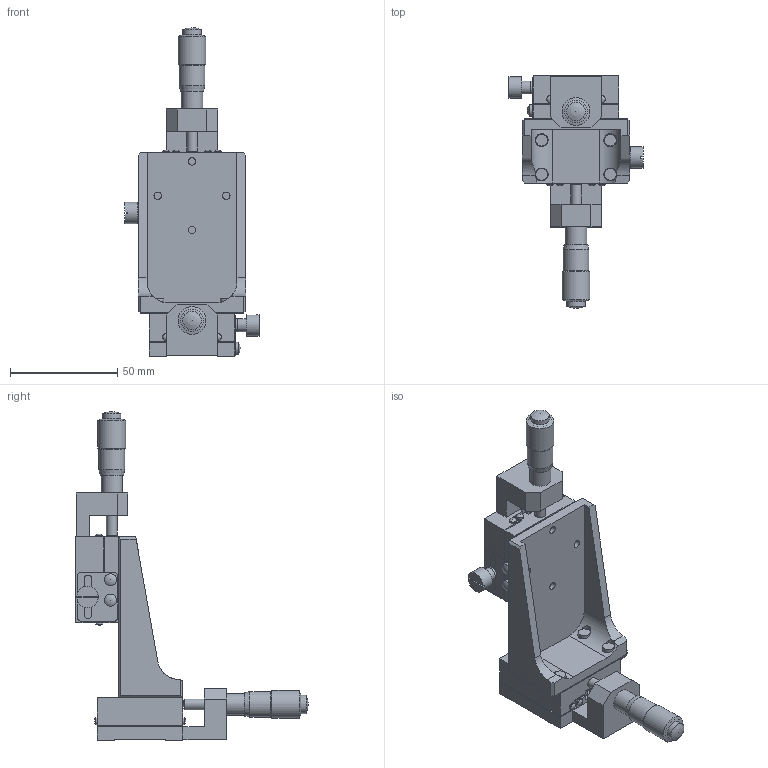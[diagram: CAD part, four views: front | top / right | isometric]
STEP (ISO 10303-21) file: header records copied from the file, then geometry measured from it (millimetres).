
FILE_DESCRIPTION( ( 'STEP AP203' ), '1' );
FILE_NAME( 'C:/3D-Trans/3D_B61-40A+090216.step', '2009-02-16T04:13:11', ( ' ' ), ( ' ' ), 'XStep 1.0', ' ', ' ' );
FILE_SCHEMA( ( 'CONFIG_CONTROL_DESIGN' ) );
Length unit declared in the file: millimetre
Products named in the file (7): 1; 2; 3; 4; 5; 6; 7
Bounding box: 62.6 x 108.5 x 153.5 mm (x, y, z)
Volume: 110396.3 mm3; surface area: 52314.6 mm2
Topology: 7 solids, 7 shells, 381 faces, 963 edges, 634 vertices
Faces by surface type: plane 213, cylinder 126, sphere 24, cone 18
Full cylindrical faces by diameter (mm): 2 x4, 2.5 x28, 3 x10, 3.2 x16, 3.5 x8, 5 x6, 5.5 x4, 5.6 x4, 6 x12, 8.6 x2, 9 x2, 10 x4, 10.5 x2, 12 x4, 13 x4
Entity records: 10617 total; most frequent: CARTESIAN_POINT 1959, DIRECTION 1745, ORIENTED_EDGE 1462, EDGE_CURVE 731, AXIS2_PLACEMENT_3D 634, EDGE_LOOP 607, VERTEX_POINT 566, FACE_OUTER_BOUND 491
